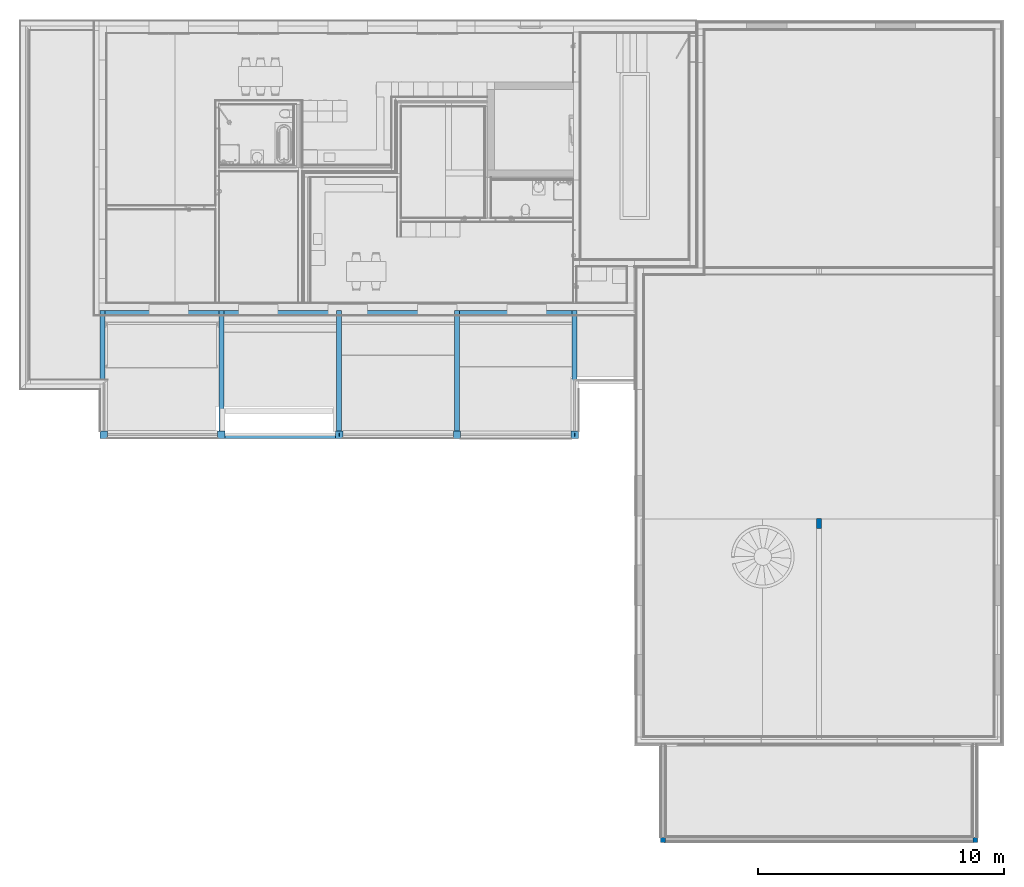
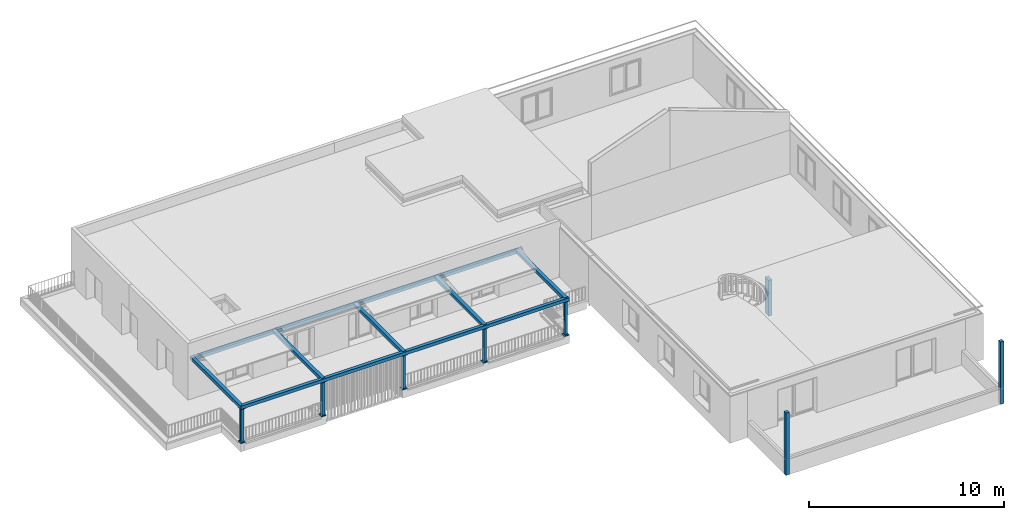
# One storey, part 1 of 36: 8 columns, 7 beams.
"""IFC4 building model written with IfcOpenShell, lengths in millimetres."""

from ifc_helpers import new_model, entity, si_unit, converted_unit, derived_unit, direction, frame, origin_with_axes, place, context, subcontext, project, spatial, polygons, material, constituent, constituent_set, type_object, element, save


model = new_model("IFC4")

# Units and contexts
model_context = context("Model", 3, precision=0.01, world=origin_with_axes(), true_north=direction((0.0, 1.0)))
body_context = subcontext(model_context, "Body", "Model", "MODEL_VIEW")
ifc_project = project(units=[si_unit("LENGTHUNIT", "METRE", prefix="MILLI"), si_unit("AREAUNIT", "SQUARE_METRE"), si_unit("VOLUMEUNIT", "CUBIC_METRE"), converted_unit("PLANEANGLEUNIT", "DEGREE", entity("IfcPlaneAngleMeasure", 0.0174532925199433), si_unit("PLANEANGLEUNIT", "RADIAN"), dimensions=[0, 0, 0, 0, 0, 0, 0]), converted_unit("TIMEUNIT", "Year", entity("IfcTimeMeasure", 31557600.0), si_unit("TIMEUNIT", "SECOND"), dimensions=[0, 0, 1, 0, 0, 0, 0]), si_unit("MASSUNIT", "GRAM", prefix="KILO"), si_unit("THERMODYNAMICTEMPERATUREUNIT", "DEGREE_CELSIUS"), si_unit("LUMINOUSINTENSITYUNIT", "LUMEN"), si_unit("ENERGYUNIT", "JOULE", prefix="MEGA"), derived_unit("THERMALCONDUCTANCEUNIT", [(si_unit("POWERUNIT", "WATT"), 1), (si_unit("LENGTHUNIT", "METRE"), -1), (si_unit("THERMODYNAMICTEMPERATUREUNIT", "KELVIN"), -1)]), derived_unit("SPECIFICHEATCAPACITYUNIT", [(si_unit("ENERGYUNIT", "JOULE"), 1), (si_unit("MASSUNIT", "GRAM", prefix="KILO"), -1), (si_unit("THERMODYNAMICTEMPERATUREUNIT", "KELVIN"), -1)]), derived_unit("MASSDENSITYUNIT", [(si_unit("MASSUNIT", "GRAM", prefix="KILO"), 1), (si_unit("VOLUMEUNIT", "CUBIC_METRE"), -1)])], contexts=[model_context])

# Site, building, storey
site_placement = place(None, origin_with_axes())
site = spatial("IfcSite", under=ifc_project, at=site_placement, Name="Gelände", CompositionType="ELEMENT")
building_placement = place(site_placement, origin_with_axes())
building = spatial("IfcBuilding", under=site, at=building_placement, Name="Gebäude", CompositionType="ELEMENT")
storey_placement = place(building_placement, frame((0.0, 0.0, 8700.0), z_axis=(0.0, 0.0, 1.0), x_axis=(1.0, 0.0, 0.0)))
storey = spatial("IfcBuildingStorey", under=building, at=storey_placement, Name="Attika", CompositionType="ELEMENT", Elevation=8700.0)

# Columns
ifc_material_1 = material(Name="Massivholz")
column_type_1 = type_object("IfcColumnType", Name="Massivholz 200 x 200", PredefinedType="NOTDEFINED")
column_1_placement = place(storey_placement, frame((19074.99747005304, 4618.59728131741, 499.9998960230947), z_axis=(0.0, 0.0, 1.0), x_axis=(1.0, 0.0, 0.0)))
element("IfcColumn", 1, at=column_1_placement, inside=storey, type_object=column_type_1, material=ifc_material_1, Name="Stütze-015", PredefinedType="NOTDEFINED", context=body_context, shape_type="Tessellation", body=[
    polygons([(-100.0000000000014, 99.99999999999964, 0.0), (-100.0000000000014, 99.99999999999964, 999.9999999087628), (100.0000000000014, 99.99999999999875, 999.999998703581), (100.0000000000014, 99.99999999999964, 0.0), (-100.0000000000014, -99.99999999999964, 0.0), (-100.0000000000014, -100.0000000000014, 999.9999999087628), (100.0000000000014, -99.99999999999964, 999.9999999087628), (100.0000000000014, -99.99999999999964, 0.0)], [[[1, 2, 3, 4]], [[5, 6, 2, 1]], [[3, 2, 6, 7]], [[4, 3, 7, 8]], [[1, 4, 8, 5]], [[8, 7, 6, 5]]], closed=True),
    polygons([(-100.0000000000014, 99.99999999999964, 1002.526755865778), (100.0000000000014, 99.99999999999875, 1002.526754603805), (100.0000000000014, -99.99999999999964, 1002.526755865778), (-100.0000000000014, -100.0000000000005, 1002.526755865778), (100.0000000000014, 99.99999999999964, 3906.551568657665), (-100.0000000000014, 99.99999999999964, 3906.551568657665), (100.0000000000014, -99.99999999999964, 3906.551568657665), (-100.0000000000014, -99.99999999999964, 3906.551568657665)], [[[1, 2, 3, 4]], [[5, 2, 1, 6]], [[3, 2, 5, 7]], [[8, 4, 3, 7]], [[6, 1, 4, 8]], [[7, 5, 6, 8]]], closed=True),
])
column_2_placement = place(storey_placement, frame((31782.9974188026, 4618.59728131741, 499.9998960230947), z_axis=(0.0, 0.0, 1.0), x_axis=(1.0, 0.0, 0.0)))
element("IfcColumn", 2, at=column_2_placement, inside=storey, type_object=column_type_1, material=ifc_material_1, Name="Stütze-015", PredefinedType="NOTDEFINED", context=body_context, shape_type="Tessellation", body=[
    polygons([(100.0000000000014, 99.99999999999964, 999.9999999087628), (-100.0000000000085, 99.99999999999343, 999.999998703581), (-100.0000000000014, -99.99999999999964, 999.9999999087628), (99.99999999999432, -100.0000000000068, 999.9999999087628), (-100.0000000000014, 99.99999999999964, 0.0), (100.0000000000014, 99.99999999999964, 0.0), (-100.0000000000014, -99.99999999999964, 0.0), (100.0000000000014, -99.99999999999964, 0.0)], [[[1, 2, 3, 4]], [[5, 2, 1, 6]], [[3, 2, 5, 7]], [[8, 4, 3, 7]], [[6, 1, 4, 8]], [[8, 7, 5, 6]]], closed=True),
    polygons([(-100.0000000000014, -99.99999999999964, 1002.526755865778), (-100.0000000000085, 99.99999999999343, 1002.526754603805), (100.0000000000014, 99.99999999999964, 1002.526755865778), (99.99999999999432, -100.0000000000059, 1002.526755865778), (-100.0000000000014, 99.99999999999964, 3906.551568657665), (-100.0000000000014, -99.99999999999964, 3906.551568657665), (100.0000000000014, 99.99999999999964, 3906.551568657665), (100.0000000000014, -99.99999999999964, 3906.551568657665)], [[[1, 2, 3, 4]], [[5, 2, 1, 6]], [[3, 2, 5, 7]], [[8, 4, 3, 7]], [[6, 1, 4, 8]], [[5, 6, 8, 7]]], closed=True),
])
ifc_material_2 = material(Name="Vollholzwerkstoff")
column_type_2 = type_object("IfcColumnType", Name="Vollholzwerkstoff 200 x 400", PredefinedType="NOTDEFINED")
column_3_placement = place(storey_placement, frame((25428.99744442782, 17489.67011252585, 500.0), z_axis=(0.0, 0.0, 1.0), x_axis=(1.0, 0.0, 0.0)))
element("IfcColumn", 3, at=column_3_placement, inside=storey, type_object=column_type_2, material=ifc_material_2, Name="Stütze-015", PredefinedType="NOTDEFINED", context=body_context, shape_type="Tessellation", body=[
    polygons([(-100.0000000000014, -199.9999999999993, 2243.999896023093), (-100.0000000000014, -199.9999999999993, 0.0), (100.0000000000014, -199.9999999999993, 0.0), (100.0000000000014, -199.9999999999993, 2243.999896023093), (-100.0000000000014, 199.9999999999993, 2243.999896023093), (-100.0000000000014, 199.9999999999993, 0.0), (100.0000000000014, 199.9999999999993, 0.0), (100.0000000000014, 199.9999999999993, 2243.999896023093)], [[[1, 2, 3, 4]], [[5, 6, 2, 1]], [[3, 2, 6, 7]], [[4, 3, 7, 8]], [[5, 1, 4, 8]], [[8, 7, 6, 5]]], closed=True),
])
ifc_material_3 = material(Name="Stahl")
ifc_constituent_1 = constituent(ifc_material_3, Name="Stahl 1")
ifc_constituent_2 = constituent(ifc_material_3, Name="Stahl 2")
ifc_constituent_3 = constituent(ifc_material_3, Name="Stahl 3")
ifc_constituent_set_1 = constituent_set(constituents=[ifc_constituent_1, ifc_constituent_2, ifc_constituent_3])
column_type_3 = type_object("IfcColumnType", Name="Verschiedene Strukturen - 3 Segmente - 300 x 300 x 2150 (30+2090+30)", PredefinedType="NOTDEFINED")
column_4_placement = place(storey_placement, frame((15487.99581849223, 21097.59674077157, 500.0), z_axis=(0.0, 0.0, 1.0), x_axis=(1.0, 0.0, 0.0)))
element("IfcColumn", 4, at=column_4_placement, inside=storey, type_object=column_type_3, material=ifc_constituent_set_1, Name="Stütze-015", PredefinedType="NOTDEFINED", context=body_context, shape_type="Tessellation", body=[
    polygons([(-150.0000000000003, -149.9999999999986, 29.99999999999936), (-150.0000000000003, -149.9999999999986, 0.0), (150.0000000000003, -149.9999999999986, 0.0), (150.0000000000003, -149.9999999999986, 29.99999999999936), (-150.0000000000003, 149.9999999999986, 29.99999999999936), (-150.0000000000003, 149.9999999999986, 0.0), (150.0000000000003, 149.9999999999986, 0.0), (150.0000000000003, 149.9999999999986, 29.99999999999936)], [[[1, 2, 3, 4]], [[5, 6, 2, 1]], [[3, 2, 6, 7]], [[4, 3, 7, 8]], [[5, 1, 4, 8]], [[8, 7, 6, 5]]], closed=True),
    polygons([(-80.00000000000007, 76.00000000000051, 2119.999999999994), (-80.00000000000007, 76.00000000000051, 29.99999999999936), (-80.00000000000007, 67.00000000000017, 29.99999999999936), (-80.00000000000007, 67.00000000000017, 2119.999999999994), (80.00000000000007, 76.00000000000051, 2119.999999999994), (80.00000000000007, 76.00000000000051, 29.99999999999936), (80.00000000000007, 67.00000000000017, 29.99999999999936), (3.000000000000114, 67.00000000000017, 29.99999999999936), (3.000000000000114, -67.00000000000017, 29.99999999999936), (80.00000000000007, -67.00000000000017, 29.99999999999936), (80.00000000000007, -76.00000000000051, 29.99999999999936), (-80.00000000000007, -76.00000000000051, 29.99999999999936), (-80.00000000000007, -67.00000000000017, 29.99999999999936), (-3.000000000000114, -67.00000000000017, 29.99999999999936), (-3.000000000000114, 67.00000000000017, 29.99999999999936), (-3.000000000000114, 67.00000000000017, 2119.999999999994), (-3.000000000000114, -67.00000000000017, 2119.999999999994), (-80.00000000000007, -67.00000000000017, 2119.999999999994), (-80.00000000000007, -76.00000000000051, 2119.999999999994), (80.00000000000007, -76.00000000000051, 2119.999999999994), (80.00000000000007, -67.00000000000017, 2119.999999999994), (3.000000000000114, -67.00000000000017, 2119.999999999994), (3.000000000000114, 67.00000000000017, 2119.999999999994), (80.00000000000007, 67.00000000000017, 2119.999999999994)], [[[1, 2, 3, 4]], [[5, 6, 2, 1]], [[3, 2, 6, 7, 8, 9, 10, 11, 12, 13, 14, 15]], [[4, 3, 15, 16]], [[5, 1, 4, 16, 17, 18, 19, 20, 21, 22, 23, 24]], [[24, 7, 6, 5]], [[23, 8, 7, 24]], [[22, 9, 8, 23]], [[21, 10, 9, 22]], [[20, 11, 10, 21]], [[19, 12, 11, 20]], [[18, 13, 12, 19]], [[17, 14, 13, 18]], [[16, 15, 14, 17]]], closed=True),
    polygons([(-150.0000000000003, -149.9999999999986, 2149.999999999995), (-150.0000000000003, -149.9999999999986, 2119.999999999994), (150.0000000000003, -149.9999999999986, 2119.999999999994), (150.0000000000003, -149.9999999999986, 2149.999999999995), (-150.0000000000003, 149.9999999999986, 2149.999999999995), (-150.0000000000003, 149.9999999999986, 2119.999999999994), (150.0000000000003, 149.9999999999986, 2119.999999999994), (150.0000000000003, 149.9999999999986, 2149.999999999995)], [[[1, 2, 3, 4]], [[5, 6, 2, 1]], [[3, 2, 6, 7]], [[4, 3, 7, 8]], [[5, 1, 4, 8]], [[8, 7, 6, 5]]], closed=True),
])
ifc_constituent_4 = constituent(ifc_material_3, Name="Stahl 1")
ifc_constituent_5 = constituent(ifc_material_3, Name="Stahl 2")
ifc_constituent_6 = constituent(ifc_material_3, Name="Stahl 3")
ifc_constituent_set_2 = constituent_set(constituents=[ifc_constituent_4, ifc_constituent_5, ifc_constituent_6])
column_5_placement = place(storey_placement, frame((10697.19581849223, 21097.59674077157, 500.0), z_axis=(0.0, 0.0, 1.0), x_axis=(1.0, 0.0, 0.0)))
element("IfcColumn", 5, at=column_5_placement, inside=storey, type_object=column_type_3, material=ifc_constituent_set_2, Name="Stütze-015", PredefinedType="NOTDEFINED", context=body_context, shape_type="Tessellation", body=[
    polygons([(-150.0000000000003, -149.9999999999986, 29.99999999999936), (-150.0000000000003, -149.9999999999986, 0.0), (150.0000000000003, -149.9999999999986, 0.0), (150.0000000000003, -149.9999999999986, 29.99999999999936), (-150.0000000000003, 149.9999999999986, 29.99999999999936), (-150.0000000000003, 149.9999999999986, 0.0), (150.0000000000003, 149.9999999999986, 0.0), (150.0000000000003, 149.9999999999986, 29.99999999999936)], [[[1, 2, 3, 4]], [[5, 6, 2, 1]], [[3, 2, 6, 7]], [[4, 3, 7, 8]], [[5, 1, 4, 8]], [[8, 7, 6, 5]]], closed=True),
    polygons([(-80.00000000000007, 76.00000000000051, 2119.999999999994), (-80.00000000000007, 76.00000000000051, 29.99999999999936), (-80.00000000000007, 67.00000000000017, 29.99999999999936), (-80.00000000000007, 67.00000000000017, 2119.999999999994), (80.00000000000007, 76.00000000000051, 2119.999999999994), (80.00000000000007, 76.00000000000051, 29.99999999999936), (80.00000000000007, 67.00000000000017, 29.99999999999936), (3.000000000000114, 67.00000000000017, 29.99999999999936), (3.000000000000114, -67.00000000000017, 29.99999999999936), (80.00000000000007, -67.00000000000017, 29.99999999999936), (80.00000000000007, -76.00000000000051, 29.99999999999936), (-80.00000000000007, -76.00000000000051, 29.99999999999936), (-80.00000000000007, -67.00000000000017, 29.99999999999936), (-3.000000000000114, -67.00000000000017, 29.99999999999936), (-3.000000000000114, 67.00000000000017, 29.99999999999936), (-3.000000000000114, 67.00000000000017, 2119.999999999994), (-3.000000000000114, -67.00000000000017, 2119.999999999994), (-80.00000000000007, -67.00000000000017, 2119.999999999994), (-80.00000000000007, -76.00000000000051, 2119.999999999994), (80.00000000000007, -76.00000000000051, 2119.999999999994), (80.00000000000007, -67.00000000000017, 2119.999999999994), (3.000000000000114, -67.00000000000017, 2119.999999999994), (3.000000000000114, 67.00000000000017, 2119.999999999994), (80.00000000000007, 67.00000000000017, 2119.999999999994)], [[[1, 2, 3, 4]], [[5, 6, 2, 1]], [[3, 2, 6, 7, 8, 9, 10, 11, 12, 13, 14, 15]], [[4, 3, 15, 16]], [[5, 1, 4, 16, 17, 18, 19, 20, 21, 22, 23, 24]], [[24, 7, 6, 5]], [[23, 8, 7, 24]], [[22, 9, 8, 23]], [[21, 10, 9, 22]], [[20, 11, 10, 21]], [[19, 12, 11, 20]], [[18, 13, 12, 19]], [[17, 14, 13, 18]], [[16, 15, 14, 17]]], closed=True),
    polygons([(-150.0000000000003, -149.9999999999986, 2149.999999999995), (-150.0000000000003, -149.9999999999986, 2119.999999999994), (150.0000000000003, -149.9999999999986, 2119.999999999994), (150.0000000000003, -149.9999999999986, 2149.999999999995), (-150.0000000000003, 149.9999999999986, 2149.999999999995), (-150.0000000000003, 149.9999999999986, 2119.999999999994), (150.0000000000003, 149.9999999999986, 2119.999999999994), (150.0000000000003, 149.9999999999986, 2149.999999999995)], [[[1, 2, 3, 4]], [[5, 6, 2, 1]], [[3, 2, 6, 7]], [[4, 3, 7, 8]], [[5, 1, 4, 8]], [[8, 7, 6, 5]]], closed=True),
])
ifc_constituent_7 = constituent(ifc_material_3, Name="Stahl 1")
ifc_constituent_8 = constituent(ifc_material_3, Name="Stahl 2")
ifc_constituent_9 = constituent(ifc_material_3, Name="Stahl 3")
ifc_constituent_set_3 = constituent_set(constituents=[ifc_constituent_7, ifc_constituent_8, ifc_constituent_9])
column_6_placement = place(storey_placement, frame((5906.39581849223, 21097.59674077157, 500.0), z_axis=(0.0, 0.0, 1.0), x_axis=(1.0, 0.0, 0.0)))
element("IfcColumn", 6, at=column_6_placement, inside=storey, type_object=column_type_3, material=ifc_constituent_set_3, Name="Stütze-015", PredefinedType="NOTDEFINED", context=body_context, shape_type="Tessellation", body=[
    polygons([(-150.0000000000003, -149.9999999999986, 29.99999999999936), (-150.0000000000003, -149.9999999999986, 0.0), (150.0000000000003, -149.9999999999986, 0.0), (150.0000000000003, -149.9999999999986, 29.99999999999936), (-150.0000000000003, 149.9999999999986, 29.99999999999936), (-150.0000000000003, 149.9999999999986, 0.0), (150.0000000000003, 149.9999999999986, 0.0), (150.0000000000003, 149.9999999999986, 29.99999999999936)], [[[1, 2, 3, 4]], [[5, 6, 2, 1]], [[3, 2, 6, 7]], [[4, 3, 7, 8]], [[5, 1, 4, 8]], [[8, 7, 6, 5]]], closed=True),
    polygons([(-80.00000000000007, 76.00000000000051, 2119.999999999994), (-80.00000000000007, 76.00000000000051, 29.99999999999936), (-80.00000000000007, 67.00000000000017, 29.99999999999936), (-80.00000000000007, 67.00000000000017, 2119.999999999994), (80.00000000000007, 76.00000000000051, 2119.999999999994), (80.00000000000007, 76.00000000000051, 29.99999999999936), (80.00000000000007, 67.00000000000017, 29.99999999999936), (3.000000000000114, 67.00000000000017, 29.99999999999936), (3.000000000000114, -67.00000000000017, 29.99999999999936), (80.00000000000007, -67.00000000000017, 29.99999999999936), (80.00000000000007, -76.00000000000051, 29.99999999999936), (-80.00000000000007, -76.00000000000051, 29.99999999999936), (-80.00000000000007, -67.00000000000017, 29.99999999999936), (-3.000000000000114, -67.00000000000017, 29.99999999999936), (-3.000000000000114, 67.00000000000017, 29.99999999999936), (-3.000000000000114, 67.00000000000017, 2119.999999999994), (-3.000000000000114, -67.00000000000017, 2119.999999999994), (-80.00000000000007, -67.00000000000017, 2119.999999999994), (-80.00000000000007, -76.00000000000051, 2119.999999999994), (80.00000000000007, -76.00000000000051, 2119.999999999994), (80.00000000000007, -67.00000000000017, 2119.999999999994), (3.000000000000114, -67.00000000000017, 2119.999999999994), (3.000000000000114, 67.00000000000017, 2119.999999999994), (80.00000000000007, 67.00000000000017, 2119.999999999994)], [[[1, 2, 3, 4]], [[5, 6, 2, 1]], [[3, 2, 6, 7, 8, 9, 10, 11, 12, 13, 14, 15]], [[4, 3, 15, 16]], [[5, 1, 4, 16, 17, 18, 19, 20, 21, 22, 23, 24]], [[24, 7, 6, 5]], [[23, 8, 7, 24]], [[22, 9, 8, 23]], [[21, 10, 9, 22]], [[20, 11, 10, 21]], [[19, 12, 11, 20]], [[18, 13, 12, 19]], [[17, 14, 13, 18]], [[16, 15, 14, 17]]], closed=True),
    polygons([(-150.0000000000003, -149.9999999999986, 2149.999999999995), (-150.0000000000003, -149.9999999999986, 2119.999999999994), (150.0000000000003, -149.9999999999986, 2119.999999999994), (150.0000000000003, -149.9999999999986, 2149.999999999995), (-150.0000000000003, 149.9999999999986, 2149.999999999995), (-150.0000000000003, 149.9999999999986, 2119.999999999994), (150.0000000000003, 149.9999999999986, 2119.999999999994), (150.0000000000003, 149.9999999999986, 2149.999999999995)], [[[1, 2, 3, 4]], [[5, 6, 2, 1]], [[3, 2, 6, 7]], [[4, 3, 7, 8]], [[5, 1, 4, 8]], [[8, 7, 6, 5]]], closed=True),
])
ifc_constituent_10 = constituent(ifc_material_3, Name="Stahl 1")
ifc_constituent_11 = constituent(ifc_material_3, Name="Stahl 2")
ifc_constituent_12 = constituent(ifc_material_3, Name="Stahl 3")
ifc_constituent_set_4 = constituent_set(constituents=[ifc_constituent_10, ifc_constituent_11, ifc_constituent_12])
column_7_placement = place(storey_placement, frame((1115.595818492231, 21097.59674077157, 500.0), z_axis=(0.0, 0.0, 1.0), x_axis=(1.0, 0.0, 0.0)))
element("IfcColumn", 7, at=column_7_placement, inside=storey, type_object=column_type_3, material=ifc_constituent_set_4, Name="Stütze-015", PredefinedType="NOTDEFINED", context=body_context, shape_type="Tessellation", body=[
    polygons([(-149.9999999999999, -149.9999999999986, 29.99999999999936), (-149.9999999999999, -149.9999999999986, 0.0), (149.9999999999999, -149.9999999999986, 0.0), (149.9999999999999, -149.9999999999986, 29.99999999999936), (-149.9999999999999, 149.9999999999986, 29.99999999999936), (-149.9999999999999, 149.9999999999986, 0.0), (149.9999999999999, 149.9999999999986, 0.0), (149.9999999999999, 149.9999999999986, 29.99999999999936)], [[[1, 2, 3, 4]], [[5, 6, 2, 1]], [[3, 2, 6, 7]], [[4, 3, 7, 8]], [[5, 1, 4, 8]], [[8, 7, 6, 5]]], closed=True),
    polygons([(-80.00000000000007, 76.00000000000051, 2119.999999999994), (-80.00000000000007, 76.00000000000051, 29.99999999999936), (-80.00000000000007, 67.00000000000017, 29.99999999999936), (-80.00000000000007, 67.00000000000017, 2119.999999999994), (80.00000000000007, 76.00000000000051, 2119.999999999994), (80.00000000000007, 76.00000000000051, 29.99999999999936), (80.00000000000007, 67.00000000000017, 29.99999999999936), (2.999999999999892, 67.00000000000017, 29.99999999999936), (2.999999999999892, -67.00000000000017, 29.99999999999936), (80.00000000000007, -67.00000000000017, 29.99999999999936), (80.00000000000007, -76.00000000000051, 29.99999999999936), (-80.00000000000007, -76.00000000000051, 29.99999999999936), (-80.00000000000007, -67.00000000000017, 29.99999999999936), (-2.999999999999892, -67.00000000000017, 29.99999999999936), (-2.999999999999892, 67.00000000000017, 29.99999999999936), (-2.999999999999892, 67.00000000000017, 2119.999999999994), (-2.999999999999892, -67.00000000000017, 2119.999999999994), (-80.00000000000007, -67.00000000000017, 2119.999999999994), (-80.00000000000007, -76.00000000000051, 2119.999999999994), (80.00000000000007, -76.00000000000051, 2119.999999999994), (80.00000000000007, -67.00000000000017, 2119.999999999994), (2.999999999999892, -67.00000000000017, 2119.999999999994), (2.999999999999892, 67.00000000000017, 2119.999999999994), (80.00000000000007, 67.00000000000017, 2119.999999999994)], [[[1, 2, 3, 4]], [[5, 6, 2, 1]], [[3, 2, 6, 7, 8, 9, 10, 11, 12, 13, 14, 15]], [[4, 3, 15, 16]], [[5, 1, 4, 16, 17, 18, 19, 20, 21, 22, 23, 24]], [[24, 7, 6, 5]], [[23, 8, 7, 24]], [[22, 9, 8, 23]], [[21, 10, 9, 22]], [[20, 11, 10, 21]], [[19, 12, 11, 20]], [[18, 13, 12, 19]], [[17, 14, 13, 18]], [[16, 15, 14, 17]]], closed=True),
    polygons([(-149.9999999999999, -149.9999999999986, 2149.999999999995), (-149.9999999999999, -149.9999999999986, 2119.999999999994), (149.9999999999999, -149.9999999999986, 2119.999999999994), (149.9999999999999, -149.9999999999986, 2149.999999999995), (-149.9999999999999, 149.9999999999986, 2149.999999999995), (-149.9999999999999, 149.9999999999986, 2119.999999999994), (149.9999999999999, 149.9999999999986, 2119.999999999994), (149.9999999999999, 149.9999999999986, 2149.999999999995)], [[[1, 2, 3, 4]], [[5, 6, 2, 1]], [[3, 2, 6, 7]], [[4, 3, 7, 8]], [[5, 1, 4, 8]], [[8, 7, 6, 5]]], closed=True),
])
ifc_constituent_13 = constituent(ifc_material_3, Name="Stahl 1")
ifc_constituent_14 = constituent(ifc_material_3, Name="Stahl 2")
ifc_constituent_15 = constituent(ifc_material_3, Name="Stahl 3")
ifc_constituent_set_5 = constituent_set(constituents=[ifc_constituent_13, ifc_constituent_14, ifc_constituent_15])
column_8_placement = place(storey_placement, frame((-3675.204181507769, 21097.59674077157, 500.0), z_axis=(0.0, 0.0, 1.0), x_axis=(1.0, 0.0, 0.0)))
element("IfcColumn", 8, at=column_8_placement, inside=storey, type_object=column_type_3, material=ifc_constituent_set_5, Name="Stütze-015", PredefinedType="NOTDEFINED", context=body_context, shape_type="Tessellation", body=[
    polygons([(-149.9999999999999, -149.9999999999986, 29.99999999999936), (-149.9999999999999, -149.9999999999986, 0.0), (149.9999999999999, -149.9999999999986, 0.0), (149.9999999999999, -149.9999999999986, 29.99999999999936), (-149.9999999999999, 149.9999999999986, 29.99999999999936), (-149.9999999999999, 149.9999999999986, 0.0), (149.9999999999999, 149.9999999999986, 0.0), (149.9999999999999, 149.9999999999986, 29.99999999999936)], [[[1, 2, 3, 4]], [[5, 6, 2, 1]], [[3, 2, 6, 7]], [[4, 3, 7, 8]], [[5, 1, 4, 8]], [[8, 7, 6, 5]]], closed=True),
    polygons([(-80.00000000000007, 76.00000000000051, 2119.999999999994), (-80.00000000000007, 76.00000000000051, 29.99999999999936), (-80.00000000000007, 67.00000000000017, 29.99999999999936), (-80.00000000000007, 67.00000000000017, 2119.999999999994), (80.00000000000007, 76.00000000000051, 2119.999999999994), (80.00000000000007, 76.00000000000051, 29.99999999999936), (80.00000000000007, 67.00000000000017, 29.99999999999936), (3.000000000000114, 67.00000000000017, 29.99999999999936), (3.000000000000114, -67.00000000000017, 29.99999999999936), (80.00000000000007, -67.00000000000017, 29.99999999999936), (80.00000000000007, -76.00000000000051, 29.99999999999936), (-80.00000000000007, -76.00000000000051, 29.99999999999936), (-80.00000000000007, -67.00000000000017, 29.99999999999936), (-3.000000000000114, -67.00000000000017, 29.99999999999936), (-3.000000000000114, 67.00000000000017, 29.99999999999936), (-3.000000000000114, 67.00000000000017, 2119.999999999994), (-3.000000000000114, -67.00000000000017, 2119.999999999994), (-80.00000000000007, -67.00000000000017, 2119.999999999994), (-80.00000000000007, -76.00000000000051, 2119.999999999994), (80.00000000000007, -76.00000000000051, 2119.999999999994), (80.00000000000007, -67.00000000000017, 2119.999999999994), (3.000000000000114, -67.00000000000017, 2119.999999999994), (3.000000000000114, 67.00000000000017, 2119.999999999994), (80.00000000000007, 67.00000000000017, 2119.999999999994)], [[[1, 2, 3, 4]], [[5, 6, 2, 1]], [[3, 2, 6, 7, 8, 9, 10, 11, 12, 13, 14, 15]], [[4, 3, 15, 16]], [[5, 1, 4, 16, 17, 18, 19, 20, 21, 22, 23, 24]], [[24, 7, 6, 5]], [[23, 8, 7, 24]], [[22, 9, 8, 23]], [[21, 10, 9, 22]], [[20, 11, 10, 21]], [[19, 12, 11, 20]], [[18, 13, 12, 19]], [[17, 14, 13, 18]], [[16, 15, 14, 17]]], closed=True),
    polygons([(-149.9999999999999, -149.9999999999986, 2149.999999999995), (-149.9999999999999, -149.9999999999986, 2119.999999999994), (149.9999999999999, -149.9999999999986, 2119.999999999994), (149.9999999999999, -149.9999999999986, 2149.999999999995), (-149.9999999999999, 149.9999999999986, 2149.999999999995), (-149.9999999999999, 149.9999999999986, 2119.999999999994), (149.9999999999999, 149.9999999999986, 2119.999999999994), (149.9999999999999, 149.9999999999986, 2149.999999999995)], [[[1, 2, 3, 4]], [[5, 6, 2, 1]], [[3, 2, 6, 7]], [[4, 3, 7, 8]], [[5, 1, 4, 8]], [[8, 7, 6, 5]]], closed=True),
])

# Beams
beam_type = type_object("IfcBeamType", Name="Massivholz 200 x 200", PredefinedType="NOTDEFINED")
beam_1_placement = place(storey_placement, frame((15587.99581849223, 25957.59674077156, 2649.999999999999), z_axis=(0.0, 0.0, 1.0), x_axis=(0.0, 1.0, 0.0)))
element("IfcBeam", 9, at=beam_1_placement, inside=storey, type_object=beam_type, material=ifc_material_1, Name="Unterzug-027", PredefinedType="NOTDEFINED", context=body_context, shape_type="Tessellation", body=[
    polygons([(200.0000000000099, 14572.4, 0.0), (200.0000000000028, 19213.19999999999, 0.0), (200.0000000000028, 19213.19999999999, 200.0000000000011), (200.0000000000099, 14572.4, 200.0000000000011), (0.0, 14572.4, 0.0), (0.0, 19213.19999999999, 0.0), (0.0, 19213.19999999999, 200.0000000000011), (0.0, 14572.4, 200.0000000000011)], [[[1, 2, 3, 4]], [[5, 6, 2, 1]], [[6, 7, 3, 2]], [[4, 3, 7, 8]], [[8, 5, 1, 4]], [[8, 7, 6, 5]]], closed=True),
    polygons([(200.0000000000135, 9781.6, 0.0), (200.0000000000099, 14372.4, 0.0), (200.0000000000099, 14372.4, 200.0000000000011), (200.0000000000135, 9781.6, 200.0000000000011), (0.0, 9781.6, 0.0), (0.0, 14372.4, 0.0), (0.0, 14372.4, 200.0000000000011), (0.0, 9781.6, 200.0000000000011)], [[[1, 2, 3, 4]], [[5, 6, 2, 1]], [[6, 7, 3, 2]], [[4, 3, 7, 8]], [[8, 5, 1, 4]], [[8, 7, 6, 5]]], closed=True),
    polygons([(200.0000000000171, 4990.8, 0.0), (200.0000000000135, 9581.600000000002, 0.0), (200.0000000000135, 9581.600000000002, 200.0000000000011), (200.0000000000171, 4990.8, 200.0000000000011), (0.0, 4990.8, 0.0), (0.0, 9581.600000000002, 0.0), (0.0, 9581.600000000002, 200.0000000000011), (0.0, 4990.8, 200.0000000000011)], [[[1, 2, 3, 4]], [[5, 6, 2, 1]], [[6, 7, 3, 2]], [[4, 3, 7, 8]], [[8, 5, 1, 4]], [[8, 7, 6, 5]]], closed=True),
    polygons([(200.0000000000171, 199.9999999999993, 0.0), (200.0000000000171, 4790.800000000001, 0.0), (200.0000000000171, 4790.800000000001, 200.0000000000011), (200.0000000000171, 199.9999999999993, 200.0000000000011), (0.0, 199.9999999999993, 0.0), (0.0, 4790.800000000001, 0.0), (0.0, 4790.800000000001, 200.0000000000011), (0.0, 199.9999999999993, 200.0000000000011)], [[[1, 2, 3, 4]], [[5, 6, 2, 1]], [[6, 7, 3, 2]], [[4, 3, 7, 8]], [[8, 5, 1, 4]], [[8, 7, 6, 5]]], closed=True),
])
for number, where, z_axis, x_axis, name in (
    (10, (15487.99581849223, 26157.59674077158, 2650.0), (0.0, 0.0, 1.0), (-1.0, 0.0, 0.0), "Unterzug-027"),
    (11, (10697.19581849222, 26157.59674077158, 2650.0), (0.0, 0.0, 1.0), (-1.0, 0.0, 0.0), "Unterzug-027"),
):
    element("IfcBeam", number, at=place(storey_placement, frame(where, z_axis=z_axis, x_axis=x_axis)), inside=storey, type_object=beam_type, material=ifc_material_1, Name=name, PredefinedType="NOTDEFINED", context=body_context, shape_type="Tessellation", body=[
        polygons([(-99.99999999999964, 0.0, 0.0), (-100.0000000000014, 5117.964781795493, 0.0), (99.99999999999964, 5117.964781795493, 0.0), (99.99999999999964, 0.0, 0.0), (-99.99999999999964, 0.0, 199.9999999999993), (-100.0000000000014, 5117.964781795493, 199.9999999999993), (99.99999999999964, 5117.964781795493, 199.9999999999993), (99.99999999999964, 0.0, 199.9999999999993)], [[[1, 2, 3, 4]], [[5, 6, 2, 1]], [[3, 2, 6, 7]], [[4, 3, 7, 8]], [[5, 1, 4, 8]], [[8, 7, 6, 5]]], closed=True),
    ])
beam_2_placement = place(storey_placement, frame((5906.395818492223, 26157.59674077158, 2650.0), z_axis=(0.0, 0.0, 1.0), x_axis=(-1.0, 0.0, 0.0)))
element("IfcBeam", 12, at=beam_2_placement, inside=storey, type_object=beam_type, material=ifc_material_1, Name="Unterzug-027", PredefinedType="NOTDEFINED", context=body_context, shape_type="Tessellation", body=[
    polygons([(-99.99999999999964, 0.0, 0.0), (-100.0000000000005, 5117.964781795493, 0.0), (99.99999999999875, 5117.964781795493, 0.0), (99.99999999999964, 0.0, 0.0), (-99.99999999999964, 0.0, 199.9999999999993), (-100.0000000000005, 5117.964781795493, 199.9999999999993), (99.99999999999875, 5117.964781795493, 199.9999999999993), (99.99999999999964, 0.0, 199.9999999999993)], [[[1, 2, 3, 4]], [[5, 6, 2, 1]], [[3, 2, 6, 7]], [[4, 3, 7, 8]], [[5, 1, 4, 8]], [[8, 7, 6, 5]]], closed=True),
])
beam_3_placement = place(storey_placement, frame((1115.595818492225, 26157.59674077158, 2650.0), z_axis=(0.0, 0.0, 1.0), x_axis=(-1.0, 0.0, 0.0)))
element("IfcBeam", 13, at=beam_3_placement, inside=storey, type_object=beam_type, material=ifc_material_1, Name="Unterzug-027", PredefinedType="NOTDEFINED", context=body_context, shape_type="Tessellation", body=[
    polygons([(-100.0000000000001, 0.0, 0.0), (-99.99999999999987, 5117.964781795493, 0.0), (100.0000000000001, 5117.964781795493, 0.0), (100.0000000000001, 0.0, 0.0), (-100.0000000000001, 0.0, 199.9999999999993), (-99.99999999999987, 5117.964781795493, 199.9999999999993), (100.0000000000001, 5117.964781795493, 199.9999999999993), (100.0000000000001, 0.0, 199.9999999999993)], [[[1, 2, 3, 4]], [[5, 6, 2, 1]], [[3, 2, 6, 7]], [[4, 3, 7, 8]], [[5, 1, 4, 8]], [[8, 7, 6, 5]]], closed=True),
])
beam_4_placement = place(storey_placement, frame((-3825.204181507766, 26157.59674077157, 2650.0), z_axis=(0.0, 0.0, 1.0), x_axis=(-1.0, 0.0, 0.0)))
element("IfcBeam", 14, at=beam_4_placement, inside=storey, type_object=beam_type, material=ifc_material_1, Name="Unterzug-027", PredefinedType="NOTDEFINED", context=body_context, shape_type="Tessellation", body=[
    polygons([(-200.0000000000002, 0.0, 0.0), (-200.0000000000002, 5010.000000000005, 0.0), (0.0, 5210.000000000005, 0.0), (0.0, 0.0, 0.0), (-200.0000000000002, 0.0, 199.9999999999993), (-200.0000000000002, 5010.000000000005, 199.9999999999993), (0.0, 5210.000000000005, 199.9999999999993), (0.0, 0.0, 199.9999999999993)], [[[1, 2, 3, 4]], [[5, 6, 2, 1]], [[3, 2, 6, 7]], [[4, 3, 7, 8]], [[5, 1, 4, 8]], [[8, 7, 6, 5]]], closed=True),
])
beam_5_placement = place(storey_placement, frame((15637.99581849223, 20947.59674077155, 2650.0), z_axis=(0.0, 0.0, 1.0), x_axis=(0.0, 1.0, 0.0)))
element("IfcBeam", 15, at=beam_5_placement, inside=storey, type_object=beam_type, material=ifc_material_1, Name="Unterzug-027", PredefinedType="NOTDEFINED", context=body_context, shape_type="Tessellation", body=[
    polygons([(199.9999999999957, 9831.600000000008, 0.0), (199.9999999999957, 14422.40000000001, 0.0), (199.9999999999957, 14422.40000000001, 199.9999999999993), (199.9999999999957, 9831.600000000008, 199.9999999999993), (92.03521820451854, 14622.40000000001, 0.0), (92.03521820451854, 14422.40000000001, 0.0), (92.0352182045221, 9831.600000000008, 0.0), (92.03521820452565, 9631.600000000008, 0.0), (199.9999999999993, 9631.600000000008, 0.0), (199.9999999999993, 5040.800000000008, 0.0), (92.0352182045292, 5040.800000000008, 0.0), (92.0352182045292, 4840.800000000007, 0.0), (199.9999999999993, 4840.800000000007, 0.0), (199.9999999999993, 250.0000000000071, 0.0), (92.03521820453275, 250.0000000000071, 0.0), (92.03521820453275, 50.00000000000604, 0.0), (199.9999999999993, 50.00000000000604, 0.0), (199.9999999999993, 0.0, 0.0), (0.0, 0.0, 0.0), (0.0, 19463.2, 0.0), (199.9999999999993, 19263.2, 0.0), (199.9999999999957, 14622.40000000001, 0.0), (92.03521820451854, 14422.40000000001, 199.9999999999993), (92.03521820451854, 14622.40000000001, 199.9999999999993), (199.9999999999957, 14622.40000000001, 199.9999999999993), (199.9999999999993, 19263.2, 199.9999999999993), (0.0, 19463.2, 199.9999999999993), (0.0, 0.0, 199.9999999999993), (199.9999999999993, 0.0, 199.9999999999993), (199.9999999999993, 50.00000000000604, 199.9999999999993), (92.03521820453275, 50.00000000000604, 199.9999999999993), (92.03521820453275, 250.0000000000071, 199.9999999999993), (199.9999999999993, 250.0000000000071, 199.9999999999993), (199.9999999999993, 4840.800000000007, 199.9999999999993), (92.0352182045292, 4840.800000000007, 199.9999999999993), (92.0352182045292, 5040.800000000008, 199.9999999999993), (199.9999999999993, 5040.800000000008, 199.9999999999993), (199.9999999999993, 9631.600000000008, 199.9999999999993), (92.03521820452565, 9631.600000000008, 199.9999999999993), (92.0352182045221, 9831.600000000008, 199.9999999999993)], [[[1, 2, 3, 4]], [[5, 6, 2, 1, 7, 8, 9, 10, 11, 12, 13, 14, 15, 16, 17, 18, 19, 20, 21, 22]], [[6, 23, 3, 2]], [[23, 24, 25, 26, 27, 28, 29, 30, 31, 32, 33, 34, 35, 36, 37, 38, 39, 40, 4, 3]], [[40, 7, 1, 4]], [[5, 24, 23, 6]], [[8, 7, 40, 39]], [[9, 8, 39, 38]], [[37, 10, 9, 38]], [[37, 36, 11, 10]], [[35, 12, 11, 36]], [[34, 13, 12, 35]], [[34, 33, 14, 13]], [[14, 33, 32, 15]], [[32, 31, 16, 15]], [[31, 30, 17, 16]], [[17, 30, 29, 18]], [[18, 29, 28, 19]], [[28, 27, 20, 19]], [[27, 26, 21, 20]], [[26, 25, 22, 21]], [[5, 22, 25, 24]]], closed=True),
])

save(model, "model.ifc")
